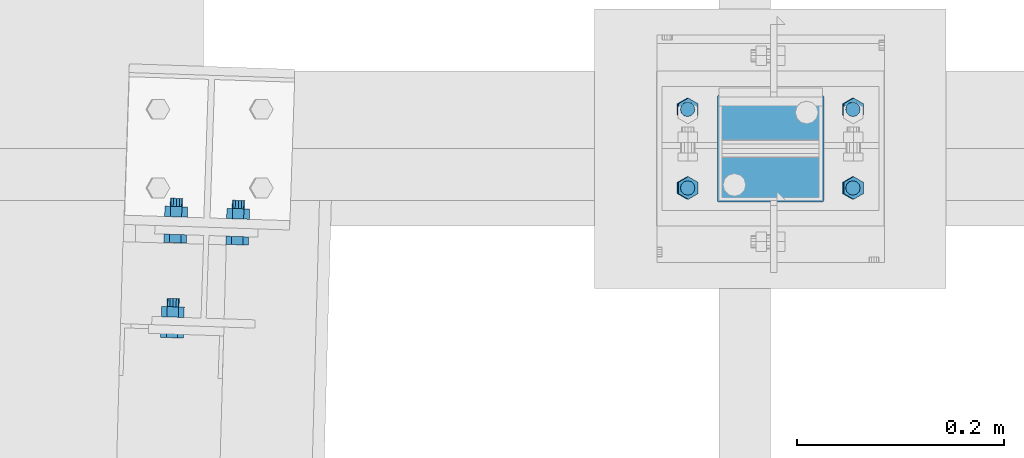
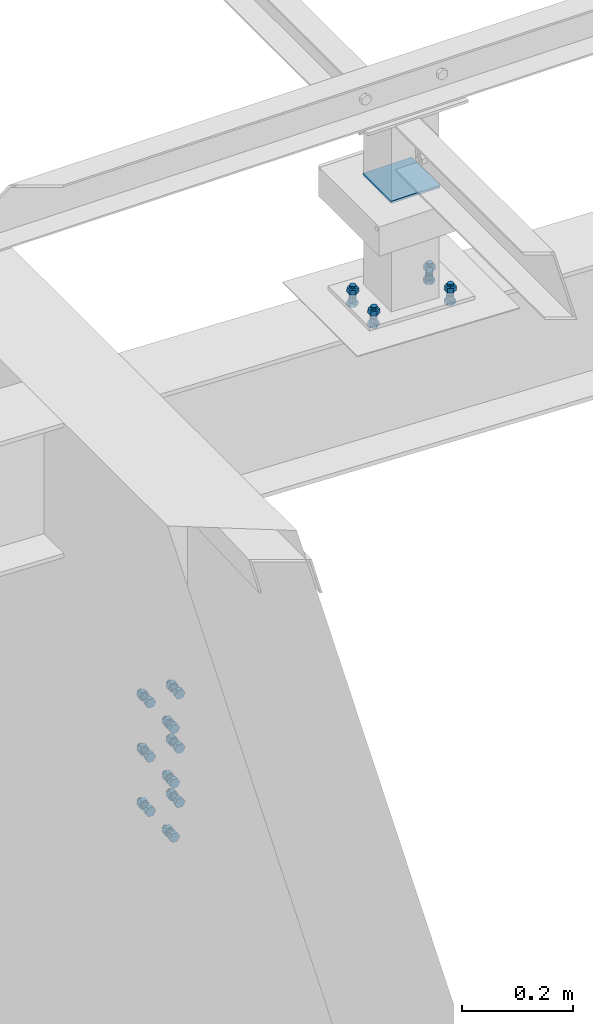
# One storey, part 169 of 3134: 5 mechanical fasteners, 4 elements without a shape of their own.
"""IFC2X3 building model written with IfcOpenShell, lengths in millimetres."""

import ifcopenshell
import ifcopenshell.guid

model = None  # the IFC model being written
_history = None  # IfcOwnerHistory: only IFC2X3 demands one
_inside = {}  # id of a spatial element -> (the spatial element, [elements in it])
_under = {}  # id of a project, library or spatial element -> (it, [spatial elements below it])
_declared = {}  # id of a project -> (the project, [libraries it declares])
_typed = {}  # id of a type object -> (the type object, [elements of that type])
_made_of = {}  # id of a material, layer set ... -> (it, [elements and type objects made of it])


def new_model(schema):
    """Start an empty IFC model of exactly this schema.

    Asked for "IFC4X3", IfcOpenShell would pick the latest addendum, in which some entities
    have other attributes; the version numbers below select the first issue.
    IFC2X3 requires an IfcOwnerHistory on every rooted entity: one is made here for all.
    """
    global model, _history
    if schema == "IFC4X3":
        model = ifcopenshell.file(schema_version=(4, 3, 0, 0))
    else:
        model = ifcopenshell.file(schema=schema)
    _inside.clear()
    _under.clear()
    _declared.clear()
    _typed.clear()
    _made_of.clear()
    _history = None
    if model.schema == "IFC2X3":
        org = make("IfcOrganization", Name="unknown")
        user = make(
            "IfcPersonAndOrganization",
            ThePerson=make("IfcPerson", FamilyName="unknown"),
            TheOrganization=org,
        )
        app = make(
            "IfcApplication",
            ApplicationDeveloper=org,
            Version="unknown",
            ApplicationFullName="unknown",
            ApplicationIdentifier="unknown",
        )
        _history = make(
            "IfcOwnerHistory",
            OwningUser=user,
            OwningApplication=app,
            ChangeAction="ADDED",
            CreationDate=0,
        )
    return model


def make(cls, **values):
    """One entity of the class cls with the attributes given. An attribute that is None is left unset."""
    return model.create_entity(
        cls, **{name: value for name, value in values.items() if value is not None}
    )


def rooted(cls, **values):
    """An entity with a GlobalId (a new one), such as an element, a storey or a relation."""
    return make(cls, GlobalId=ifcopenshell.guid.new(), OwnerHistory=_history, **values)


def si_unit(unit_type, name, prefix=None):
    """IfcSIUnit, for example si_unit("LENGTHUNIT", "METRE", prefix="MILLI")."""
    return make("IfcSIUnit", UnitType=unit_type, Prefix=prefix, Name=name)


def assignment(units):
    """IfcUnitAssignment: the units of a project."""
    return None if units is None else make("IfcUnitAssignment", Units=units)


def point(xyz):
    """IfcCartesianPoint."""
    return None if xyz is None else make("IfcCartesianPoint", Coordinates=xyz)


def direction(xyz):
    """IfcDirection."""
    return None if xyz is None else make("IfcDirection", DirectionRatios=xyz)


def frame(location, z_axis=None, x_axis=None):
    """IfcAxis2Placement3D, a coordinate frame: its origin and axes. An axis left out is left unset."""
    return make(
        "IfcAxis2Placement3D",
        Location=point(location),
        Axis=direction(z_axis),
        RefDirection=direction(x_axis),
    )


def origin_with_axes():
    """The frame at (0, 0, 0) with the z axis (0, 0, 1) and the x axis (1, 0, 0) written out."""
    return frame((0.0, 0.0, 0.0), z_axis=(0.0, 0.0, 1.0), x_axis=(1.0, 0.0, 0.0))


def place(relative_to, where):
    """IfcLocalPlacement: puts the frame where relative to a parent placement (None: the world)."""
    return make(
        "IfcLocalPlacement", PlacementRelTo=relative_to, RelativePlacement=where
    )


def context(
    kind, dimensions, precision=None, world=None, true_north=None, identifier=None
):
    """IfcGeometricRepresentationContext, for example the 3D "Model" context."""
    return make(
        "IfcGeometricRepresentationContext",
        ContextIdentifier=identifier,
        ContextType=kind,
        CoordinateSpaceDimension=dimensions,
        Precision=precision,
        WorldCoordinateSystem=world,
        TrueNorth=true_north,
    )


def subcontext(parent, identifier, kind, view, scale=None):
    """IfcGeometricRepresentationSubContext, for example "Body" below "Model"."""
    return make(
        "IfcGeometricRepresentationSubContext",
        ContextIdentifier=identifier,
        ContextType=kind,
        ParentContext=parent,
        TargetScale=scale,
        TargetView=view,
    )


def project(units=None, contexts=None):
    """IfcProject with its units and contexts."""
    return rooted(
        "IfcProject",
        Name="project",
        RepresentationContexts=contexts,
        UnitsInContext=assignment(units),
    )


def spatial(cls, under=None, at=None, **own):
    """A site, building, storey or space (cls), placed at a placement, below another one or the project."""
    s = rooted(cls, ObjectPlacement=at, **own)
    if under is not None:
        _under.setdefault(under.id(), (under, []))[1].append(s)
    return s


def faces_of(points, faces, orient=None, outer=None):
    """IfcFace entities. A face is a list of loops; a loop is a list of indices into points, from 0.

    orient and outer hold one flag for each loop. By default every Orientation is true, the
    first loop of a face is its IfcFaceOuterBound and the others are IfcFaceBound.
    """
    made = []
    for i, loops in enumerate(faces):
        bounds = []
        for j, loop in enumerate(loops):
            is_outer = j == 0 if outer is None else outer[i][j]
            bounds.append(
                make(
                    "IfcFaceOuterBound" if is_outer else "IfcFaceBound",
                    Bound=make("IfcPolyLoop", Polygon=[points[k] for k in loop]),
                    Orientation=True if orient is None else orient[i][j],
                )
            )
        made.append(make("IfcFace", Bounds=bounds))
    return made


def faceted_brep(points, faces, orient=None, outer=None, voids=None):
    """IfcFacetedBrep: a solid bounded by flat faces; with voids (closed shells), ...WithVoids."""
    shared = [point(p) for p in points]
    hull = make("IfcClosedShell", CfsFaces=faces_of(shared, faces, orient, outer))
    if voids is None:
        return make("IfcFacetedBrep", Outer=hull)
    return make(
        "IfcFacetedBrepWithVoids",
        Outer=hull,
        Voids=[
            make(cls, CfsFaces=faces_of(shared, fs, o, b)) for cls, fs, o, b in voids
        ],
    )


def shape(context_of_items, identifier, shape_type, items):
    """IfcShapeRepresentation: the items that make up one representation, for example the "Body"."""
    return make(
        "IfcShapeRepresentation",
        ContextOfItems=context_of_items,
        RepresentationIdentifier=identifier,
        RepresentationType=shape_type,
        Items=items,
    )


def source(mapping_origin, context_of_items, identifier, shape_type, items):
    """IfcRepresentationMap: a shape defined once, which mapped items show again and again."""
    return make(
        "IfcRepresentationMap",
        MappingOrigin=mapping_origin,
        MappedRepresentation=shape(context_of_items, identifier, shape_type, items),
    )


def transform(
    local_origin,
    x_axis=None,
    y_axis=None,
    z_axis=None,
    scale=None,
    scale2=None,
    scale3=None,
    uniform=True,
):
    """IfcCartesianTransformationOperator3D, or its non-uniform kind. x_axis, y_axis, z_axis: its Axis1, 2, 3."""
    if uniform:
        return make(
            "IfcCartesianTransformationOperator3D",
            Axis1=direction(x_axis),
            Axis2=direction(y_axis),
            LocalOrigin=point(local_origin),
            Scale=scale,
            Axis3=direction(z_axis),
        )
    return make(
        "IfcCartesianTransformationOperator3DnonUniform",
        Axis1=direction(x_axis),
        Axis2=direction(y_axis),
        LocalOrigin=point(local_origin),
        Scale=scale,
        Axis3=direction(z_axis),
        Scale2=scale2,
        Scale3=scale3,
    )


def mapped(mapping_source, mapping_target):
    """IfcMappedItem: shows the shape of a source again, moved by a transform."""
    return make(
        "IfcMappedItem", MappingSource=mapping_source, MappingTarget=mapping_target
    )


def material(Name=None, Category=None):
    """IfcMaterial."""
    return make("IfcMaterial", Name=Name, Category=Category)


def made_of(thing, what):
    """Note that an element or type object is made of a material, layer set ...; save() writes the relation."""
    if what is not None:
        _made_of.setdefault(what.id(), (what, []))[1].append(thing)
    return thing


def type_object(cls, material=None, **own):
    """A type object (cls), such as IfcWallType, which elements share."""
    return made_of(rooted(cls, **own), material)


def element(
    cls,
    number,
    at=None,
    inside=None,
    cuts=None,
    type_object=None,
    material=None,
    context=None,
    identifier="Body",
    shape_type=None,
    held_by="IfcProductDefinitionShape",
    body=None,
    shapes=None,
    **own,
):
    """One element of the class cls, such as IfcWall. Its Tag is "e" and its number.

    at: its placement. inside: the storey or other place that contains it. cuts: it is an
    opening in that element (IfcRelVoidsElement). A single representation is given by context,
    identifier, shape_type and body (its items); several are given by shapes. held_by: the class
    of the entity that holds the representations. save() writes the other relations.
    """
    e = rooted(cls, Tag="e%d" % number, ObjectPlacement=at, **own)
    if body is not None:
        shapes = [shape(context, identifier, shape_type, body)]
    if shapes is not None:
        e.Representation = make(held_by, Representations=shapes)
    if inside is not None:
        _inside.setdefault(inside.id(), (inside, []))[1].append(e)
    if cuts is not None:
        rooted(
            "IfcRelVoidsElement", RelatingBuildingElement=cuts, RelatedOpeningElement=e
        )
    if type_object is not None:
        _typed.setdefault(type_object.id(), (type_object, []))[1].append(e)
    return made_of(e, material)


def aggregate(whole, parts):
    """IfcRelAggregates: a whole, such as a stair, and the parts it consists of."""
    return rooted("IfcRelAggregates", RelatingObject=whole, RelatedObjects=parts)


def save(model, path):
    """Write the relations noted so far, then the file.

    IfcRelAggregates (storeys below a building ...), IfcRelContainedInSpatialStructure (elements
    in a storey), IfcRelDefinesByType, IfcRelAssociatesMaterial and IfcRelDeclares: one each for
    every whole, place, type object, material and project.
    """
    for whole, parts in _under.values():
        aggregate(whole, parts)
    for where, things in _inside.values():
        rooted(
            "IfcRelContainedInSpatialStructure",
            RelatedElements=things,
            RelatingStructure=where,
        )
    for kind, things in _typed.values():
        rooted("IfcRelDefinesByType", RelatedObjects=things, RelatingType=kind)
    for what, things in _made_of.values():
        rooted("IfcRelAssociatesMaterial", RelatedObjects=things, RelatingMaterial=what)
    for by, libraries in _declared.values():
        rooted("IfcRelDeclares", RelatingContext=by, RelatedDefinitions=libraries)
    model.write(path)


model = new_model("IFC2X3")

# Units and contexts
model_context = context("Model", 3, precision=1e-05, world=origin_with_axes())
body_context = subcontext(model_context, "Body", "Model", "MODEL_VIEW")
ifc_project = project(units=[si_unit("LENGTHUNIT", "METRE", prefix="MILLI"), si_unit("AREAUNIT", "SQUARE_METRE"), si_unit("VOLUMEUNIT", "CUBIC_METRE"), si_unit("MASSUNIT", "GRAM", prefix="KILO"), si_unit("TIMEUNIT", "SECOND"), si_unit("PLANEANGLEUNIT", "RADIAN"), si_unit("SOLIDANGLEUNIT", "STERADIAN"), si_unit("THERMODYNAMICTEMPERATUREUNIT", "DEGREE_CELSIUS"), si_unit("LUMINOUSINTENSITYUNIT", "LUMEN")], contexts=[model_context])

# Site, building, storey
site_placement = place(None, origin_with_axes())
site = spatial("IfcSite", under=ifc_project, at=site_placement, CompositionType="ELEMENT")
building_placement = place(site_placement, origin_with_axes())
building = spatial("IfcBuilding", under=site, at=building_placement, Name="Undefined", CompositionType="ELEMENT")
storey_placement = place(building_placement, origin_with_axes())
storey = spatial("IfcBuildingStorey", under=building, at=storey_placement, Name="Undefined", CompositionType="ELEMENT", Elevation=0.0)

# Assembly, mechanical fastener
assembly_1_placement = place(storey_placement, origin_with_axes())
assembly_1 = element("IfcElementAssembly", 1, at=assembly_1_placement, inside=storey, Name="HEA100", AssemblyPlace="NOTDEFINED", PredefinedType="RIGID_FRAME")
ifc_material_1 = material(Name="8.8")
mechanical_fastener_type = type_object("IfcMechanicalFastenerType", Name="Bolt assembly")
shared_shape_1 = source(origin_with_axes(), body_context, "Body", "Brep", [
    faceted_brep([(10.9696551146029, -12.0, 0.0), (5.48482755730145, -12.0, 9.5), (-5.48482755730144, -12.0, 9.5), (-10.9696551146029, -12.0, 1.34339530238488e-15), (-5.48482755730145, -12.0, -9.5), (5.48482755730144, -12.0, -9.50000000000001), (5.48482755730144, -4.0, -9.50000000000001), (-5.48482755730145, -4.0, -9.5), (-10.9696551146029, -4.0, 1.34339530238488e-15), (-5.48482755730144, -4.0, 9.5), (5.48482755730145, -4.0, 9.5), (10.9696551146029, -4.0, 0.0), (6.0, -4.0, 0.0), (5.19615242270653, -4.0, 3.00000000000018), (2.99999999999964, -4.0, 5.19615242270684), (-6.21801588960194e-13, -4.0, 6.0), (-3.00000000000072, -4.0, 5.19615242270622), (-5.19615242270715, -4.0, 2.9999999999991), (-6.0, -4.0, -1.24360317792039e-12), (-5.19615242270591, -4.0, -3.00000000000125), (-2.99999999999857, -4.0, -5.19615242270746), (1.85874342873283e-12, -4.0, -6.0), (3.00000000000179, -4.0, -5.1961524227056), (5.19615242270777, -4.0, -2.99999999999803), (5.19615242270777, 26.0, -2.99999999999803), (3.00000000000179, 26.0, -5.1961524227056), (1.85874342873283e-12, 26.0, -6.0), (-2.99999999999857, 26.0, -5.19615242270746), (-5.19615242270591, 26.0, -3.00000000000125), (-6.0, 26.0, -1.24360317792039e-12), (-5.19615242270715, 26.0, 2.9999999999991), (-3.00000000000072, 26.0, 5.19615242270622), (-6.21801588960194e-13, 26.0, 6.0), (2.99999999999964, 26.0, 5.19615242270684), (5.19615242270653, 26.0, 3.00000000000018), (6.0, 26.0, 0.0), (10.9696551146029, 8.0, 0.0), (5.48482755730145, 8.0, 9.5), (-5.48482755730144, 8.0, 9.5), (-10.9696551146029, 8.0, 1.34339530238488e-15), (-5.48482755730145, 8.0, -9.5), (5.48482755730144, 8.0, -9.50000000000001), (5.48482755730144, 18.0, -9.50000000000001), (-5.48482755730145, 18.0, -9.5), (-10.9696551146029, 18.0, 1.34339530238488e-15), (-5.48482755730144, 18.0, 9.5), (5.48482755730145, 18.0, 9.5), (10.9696551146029, 18.0, 0.0)], [[[0, 1, 2, 3, 4, 5]], [[6, 7, 8, 9, 10, 11]], [[0, 11, 10, 1]], [[1, 10, 9, 2]], [[2, 9, 8, 3]], [[3, 8, 7, 4]], [[4, 7, 6, 5]], [[5, 6, 11, 0]], [[12, 13, 14, 15, 16, 17, 18, 19, 20, 21, 22, 23]], [[24, 25, 26, 27, 28, 29, 30, 31, 32, 33, 34, 35]], [[12, 35, 34, 13]], [[13, 34, 33, 14]], [[14, 33, 32, 15]], [[15, 32, 31, 16]], [[16, 31, 30, 17]], [[17, 30, 29, 18]], [[18, 29, 28, 19]], [[19, 28, 27, 20]], [[20, 27, 26, 21]], [[21, 26, 25, 22]], [[22, 25, 24, 23]], [[23, 24, 35, 12]], [[36, 37, 38, 39, 40, 41]], [[42, 43, 44, 45, 46, 47]], [[36, 47, 46, 37]], [[37, 46, 45, 38]], [[38, 45, 44, 39]], [[39, 44, 43, 40]], [[40, 43, 42, 41]], [[41, 42, 47, 36]]]),
    faceted_brep([(7.0, -3.9, 0.0), (6.06217782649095, -3.9, 3.50000000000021), (3.49999999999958, -3.9, 6.06217782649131), (-7.25435187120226e-13, -3.9, 7.0), (-3.50000000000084, -3.9, 6.06217782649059), (-6.06217782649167, -3.9, 3.49999999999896), (-7.0, -3.9, -1.45087037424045e-12), (-6.06217782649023, -3.9, -3.50000000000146), (-3.49999999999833, -3.9, -6.06217782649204), (2.1685340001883e-12, -3.9, -7.0), (3.50000000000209, -3.9, -6.06217782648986), (6.0621778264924, -3.9, -3.4999999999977), (6.0621778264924, 0.0999999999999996, -3.4999999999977), (3.50000000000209, 0.0999999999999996, -6.06217782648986), (2.1685340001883e-12, 0.0999999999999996, -7.0), (-3.49999999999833, 0.0999999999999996, -6.06217782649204), (-6.06217782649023, 0.0999999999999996, -3.50000000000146), (-7.0, 0.0999999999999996, -1.45087037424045e-12), (-6.06217782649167, 0.0999999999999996, 3.49999999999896), (-3.50000000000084, 0.0999999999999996, 6.06217782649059), (-7.25435187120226e-13, 0.0999999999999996, 7.0), (3.49999999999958, 0.0999999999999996, 6.06217782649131), (6.06217782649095, 0.0999999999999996, 3.50000000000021), (7.0, 0.0999999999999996, 0.0), (7.0, -0.1, 0.0), (6.06217782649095, -0.1, 3.50000000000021), (3.49999999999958, -0.1, 6.06217782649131), (-7.25435187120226e-13, -0.1, 7.0), (-3.50000000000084, -0.1, 6.06217782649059), (-6.06217782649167, -0.1, 3.49999999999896), (-7.0, -0.1, -1.45087037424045e-12), (-6.06217782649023, -0.1, -3.50000000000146), (-3.49999999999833, -0.1, -6.06217782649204), (2.1685340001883e-12, -0.1, -7.0), (3.50000000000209, -0.1, -6.06217782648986), (6.0621778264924, -0.1, -3.4999999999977), (6.0621778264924, 8.0000000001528, -3.4999999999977), (3.50000000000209, 8.0000000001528, -6.06217782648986), (2.1685340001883e-12, 8.0000000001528, -7.0), (-3.49999999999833, 8.0000000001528, -6.06217782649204), (-6.06217782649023, 8.0000000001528, -3.50000000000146), (-7.0, 8.0000000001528, -1.45087037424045e-12), (-6.06217782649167, 8.0000000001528, 3.49999999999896), (-3.50000000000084, 8.0000000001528, 6.06217782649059), (-7.25435187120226e-13, 8.0000000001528, 7.0), (3.49999999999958, 8.0000000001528, 6.06217782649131), (6.06217782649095, 8.0000000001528, 3.50000000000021), (7.0, 8.0000000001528, 0.0)], [[[0, 1, 2, 3, 4, 5, 6, 7, 8, 9, 10, 11]], [[12, 13, 14, 15, 16, 17, 18, 19, 20, 21, 22, 23]], [[0, 23, 22, 1]], [[1, 22, 21, 2]], [[2, 21, 20, 3]], [[3, 20, 19, 4]], [[4, 19, 18, 5]], [[5, 18, 17, 6]], [[6, 17, 16, 7]], [[7, 16, 15, 8]], [[8, 15, 14, 9]], [[9, 14, 13, 10]], [[10, 13, 12, 11]], [[11, 12, 23, 0]], [[24, 25, 26, 27, 28, 29, 30, 31, 32, 33, 34, 35]], [[36, 37, 38, 39, 40, 41, 42, 43, 44, 45, 46, 47]], [[24, 47, 46, 25]], [[25, 46, 45, 26]], [[26, 45, 44, 27]], [[27, 44, 43, 28]], [[28, 43, 42, 29]], [[29, 42, 41, 30]], [[30, 41, 40, 31]], [[31, 40, 39, 32]], [[32, 39, 38, 33]], [[33, 38, 37, 34]], [[34, 37, 36, 35]], [[35, 36, 47, 24]]]),
])
mechanical_fastener_1_placement = place(assembly_1_placement, frame((2464.60655312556, 34741.5973360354, 3170.0), z_axis=(0.0, 0.0, 1.0), x_axis=(0.99944265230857, -0.0333824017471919, 0.0)))
mechanical_fastener_1 = element("IfcMechanicalFastener", 2, at=mechanical_fastener_1_placement, type_object=mechanical_fastener_type, material=ifc_material_1, Name="Bolt assembly", NominalDiameter=12.0, NominalLength=30.0, context=body_context, shape_type="MappedRepresentation", body=[
    mapped(shared_shape_1, transform((0.0, 0.0, -120.0))),
    mapped(shared_shape_1, transform((0.0, 0.0, 0.0))),
    mapped(shared_shape_1, transform((0.0, 0.0, 120.0))),
])
aggregate(assembly_1, [mechanical_fastener_1])

assembly_2_placement = place(storey_placement, origin_with_axes())
assembly_2 = element("IfcElementAssembly", 3, at=assembly_2_placement, inside=storey, Name="HEA160", AssemblyPlace="NOTDEFINED", PredefinedType="RIGID_FRAME")
shared_shape_2 = source(origin_with_axes(), body_context, "Body", "Brep", [
    faceted_brep([(10.9696551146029, -16.0, 0.0), (5.48482755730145, -16.0, 9.5), (-5.48482755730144, -16.0, 9.5), (-10.9696551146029, -16.0, 1.34339530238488e-15), (-5.48482755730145, -16.0, -9.5), (5.48482755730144, -16.0, -9.50000000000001), (5.48482755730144, -8.0, -9.50000000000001), (-5.48482755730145, -8.0, -9.5), (-10.9696551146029, -8.0, 1.34339530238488e-15), (-5.48482755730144, -8.0, 9.5), (5.48482755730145, -8.0, 9.5), (10.9696551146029, -8.0, 0.0), (6.0, -8.0, 0.0), (5.19615242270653, -8.0, 3.00000000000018), (2.99999999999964, -8.0, 5.19615242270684), (-6.21801588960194e-13, -8.0, 6.0), (-3.00000000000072, -8.0, 5.19615242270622), (-5.19615242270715, -8.0, 2.9999999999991), (-6.0, -8.0, -1.24360317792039e-12), (-5.19615242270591, -8.0, -3.00000000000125), (-2.99999999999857, -8.0, -5.19615242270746), (1.85874342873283e-12, -8.0, -6.0), (3.00000000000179, -8.0, -5.1961524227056), (5.19615242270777, -8.0, -2.99999999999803), (5.19615242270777, 27.0, -2.99999999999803), (3.00000000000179, 27.0, -5.1961524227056), (1.85874342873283e-12, 27.0, -6.0), (-2.99999999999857, 27.0, -5.19615242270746), (-5.19615242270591, 27.0, -3.00000000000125), (-6.0, 27.0, -1.24360317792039e-12), (-5.19615242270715, 27.0, 2.9999999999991), (-3.00000000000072, 27.0, 5.19615242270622), (-6.21801588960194e-13, 27.0, 6.0), (2.99999999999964, 27.0, 5.19615242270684), (5.19615242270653, 27.0, 3.00000000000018), (6.0, 27.0, 0.0), (10.9696551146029, 9.00000000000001, 0.0), (5.48482755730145, 9.00000000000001, 9.5), (-5.48482755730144, 9.00000000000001, 9.5), (-10.9696551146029, 9.00000000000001, 1.34339530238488e-15), (-5.48482755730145, 9.00000000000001, -9.5), (5.48482755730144, 9.00000000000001, -9.50000000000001), (5.48482755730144, 19.0, -9.50000000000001), (-5.48482755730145, 19.0, -9.5), (-10.9696551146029, 19.0, 1.34339530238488e-15), (-5.48482755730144, 19.0, 9.5), (5.48482755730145, 19.0, 9.5), (10.9696551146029, 19.0, 0.0)], [[[0, 1, 2, 3, 4, 5]], [[6, 7, 8, 9, 10, 11]], [[0, 11, 10, 1]], [[1, 10, 9, 2]], [[2, 9, 8, 3]], [[3, 8, 7, 4]], [[4, 7, 6, 5]], [[5, 6, 11, 0]], [[12, 13, 14, 15, 16, 17, 18, 19, 20, 21, 22, 23]], [[24, 25, 26, 27, 28, 29, 30, 31, 32, 33, 34, 35]], [[12, 35, 34, 13]], [[13, 34, 33, 14]], [[14, 33, 32, 15]], [[15, 32, 31, 16]], [[16, 31, 30, 17]], [[17, 30, 29, 18]], [[18, 29, 28, 19]], [[19, 28, 27, 20]], [[20, 27, 26, 21]], [[21, 26, 25, 22]], [[22, 25, 24, 23]], [[23, 24, 35, 12]], [[36, 37, 38, 39, 40, 41]], [[42, 43, 44, 45, 46, 47]], [[36, 47, 46, 37]], [[37, 46, 45, 38]], [[38, 45, 44, 39]], [[39, 44, 43, 40]], [[40, 43, 42, 41]], [[41, 42, 47, 36]]]),
    faceted_brep([(7.0, -7.9, 0.0), (6.06217782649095, -7.9, 3.50000000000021), (3.49999999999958, -7.9, 6.06217782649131), (-7.25435187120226e-13, -7.9, 7.0), (-3.50000000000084, -7.9, 6.06217782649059), (-6.06217782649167, -7.9, 3.49999999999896), (-7.0, -7.9, -1.45087037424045e-12), (-6.06217782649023, -7.9, -3.50000000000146), (-3.49999999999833, -7.9, -6.06217782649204), (2.1685340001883e-12, -7.9, -7.0), (3.50000000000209, -7.9, -6.06217782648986), (6.0621778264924, -7.9, -3.4999999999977), (6.0621778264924, 0.0999999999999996, -3.4999999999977), (3.50000000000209, 0.0999999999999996, -6.06217782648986), (2.1685340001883e-12, 0.0999999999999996, -7.0), (-3.49999999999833, 0.0999999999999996, -6.06217782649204), (-6.06217782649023, 0.0999999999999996, -3.50000000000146), (-7.0, 0.0999999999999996, -1.45087037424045e-12), (-6.06217782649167, 0.0999999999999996, 3.49999999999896), (-3.50000000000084, 0.0999999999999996, 6.06217782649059), (-7.25435187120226e-13, 0.0999999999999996, 7.0), (3.49999999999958, 0.0999999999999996, 6.06217782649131), (6.06217782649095, 0.0999999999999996, 3.50000000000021), (7.0, 0.0999999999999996, 0.0), (7.0, -0.1, 0.0), (6.06217782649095, -0.1, 3.50000000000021), (3.49999999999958, -0.1, 6.06217782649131), (-7.25435187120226e-13, -0.1, 7.0), (-3.50000000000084, -0.1, 6.06217782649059), (-6.06217782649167, -0.1, 3.49999999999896), (-7.0, -0.1, -1.45087037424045e-12), (-6.06217782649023, -0.1, -3.50000000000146), (-3.49999999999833, -0.1, -6.06217782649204), (2.1685340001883e-12, -0.1, -7.0), (3.50000000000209, -0.1, -6.06217782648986), (6.0621778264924, -0.1, -3.4999999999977), (6.0621778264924, 9.00000000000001, -3.4999999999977), (3.50000000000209, 9.00000000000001, -6.06217782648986), (2.1685340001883e-12, 9.00000000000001, -7.0), (-3.49999999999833, 9.00000000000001, -6.06217782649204), (-6.06217782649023, 9.00000000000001, -3.50000000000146), (-7.0, 9.00000000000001, -1.45087037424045e-12), (-6.06217782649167, 9.00000000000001, 3.49999999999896), (-3.50000000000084, 9.00000000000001, 6.06217782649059), (-7.25435187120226e-13, 9.00000000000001, 7.0), (3.49999999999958, 9.00000000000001, 6.06217782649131), (6.06217782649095, 9.00000000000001, 3.50000000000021), (7.0, 9.00000000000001, 0.0)], [[[0, 1, 2, 3, 4, 5, 6, 7, 8, 9, 10, 11]], [[12, 13, 14, 15, 16, 17, 18, 19, 20, 21, 22, 23]], [[0, 23, 22, 1]], [[1, 22, 21, 2]], [[2, 21, 20, 3]], [[3, 20, 19, 4]], [[4, 19, 18, 5]], [[5, 18, 17, 6]], [[6, 17, 16, 7]], [[7, 16, 15, 8]], [[8, 15, 14, 9]], [[9, 14, 13, 10]], [[10, 13, 12, 11]], [[11, 12, 23, 0]], [[24, 25, 26, 27, 28, 29, 30, 31, 32, 33, 34, 35]], [[36, 37, 38, 39, 40, 41, 42, 43, 44, 45, 46, 47]], [[24, 47, 46, 25]], [[25, 46, 45, 26]], [[26, 45, 44, 27]], [[27, 44, 43, 28]], [[28, 43, 42, 29]], [[29, 42, 41, 30]], [[30, 41, 40, 31]], [[31, 40, 39, 32]], [[32, 39, 38, 33]], [[33, 38, 37, 34]], [[34, 37, 36, 35]], [[35, 36, 47, 24]]]),
])
mechanical_fastener_2_placement = place(assembly_2_placement, frame((2467.8112641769, 34837.5438306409, 3170.0), z_axis=(0.0, 0.0, 1.0), x_axis=(0.99944265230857, -0.0333824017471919, 0.0)))
mechanical_fastener_2 = element("IfcMechanicalFastener", 4, at=mechanical_fastener_2_placement, type_object=mechanical_fastener_type, material=ifc_material_1, Name="Bolt assembly", NominalDiameter=12.0, NominalLength=35.0, context=body_context, shape_type="MappedRepresentation", body=[
    mapped(shared_shape_2, transform((0.0, 0.0, -120.0))),
    mapped(shared_shape_2, transform((60.0000000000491, 0.0, -120.0))),
    mapped(shared_shape_2, transform((0.0, 0.0, 0.0))),
    mapped(shared_shape_2, transform((59.9999999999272, 0.0, 5.40239852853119e-10))),
    mapped(shared_shape_2, transform((0.0, 0.0, 120.0))),
    mapped(shared_shape_2, transform((60.0000000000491, 0.0, 120.0))),
])
aggregate(assembly_2, [mechanical_fastener_2])

assembly_3_placement = place(storey_placement, origin_with_axes())
assembly_3 = element("IfcElementAssembly", 5, at=assembly_3_placement, inside=storey, AssemblyPlace="NOTDEFINED", PredefinedType="RIGID_FRAME")
shared_shape_3 = source(origin_with_axes(), body_context, "Body", "Brep", [
    faceted_brep([(10.9696551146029, -4.1972538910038, 0.0), (5.48482755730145, -4.1972538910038, 9.5), (-5.48482755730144, -4.1972538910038, 9.5), (-10.9696551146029, -4.1972538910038, 1.34339530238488e-15), (-5.48482755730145, -4.1972538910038, -9.5), (5.48482755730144, -4.1972538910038, -9.50000000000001), (5.48482755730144, 3.8027461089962, -9.50000000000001), (-5.48482755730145, 3.8027461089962, -9.5), (-10.9696551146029, 3.8027461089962, 1.34339530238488e-15), (-5.48482755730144, 3.8027461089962, 9.5), (5.48482755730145, 3.8027461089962, 9.5), (10.9696551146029, 3.8027461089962, 0.0), (6.0, 3.8027461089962, 0.0), (5.19615242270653, 3.8027461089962, 3.00000000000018), (2.99999999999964, 3.8027461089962, 5.19615242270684), (-6.21801588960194e-13, 3.8027461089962, 6.0), (-3.00000000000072, 3.8027461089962, 5.19615242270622), (-5.19615242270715, 3.8027461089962, 2.9999999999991), (-6.0, 3.8027461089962, -1.24360317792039e-12), (-5.19615242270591, 3.8027461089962, -3.00000000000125), (-2.99999999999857, 3.8027461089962, -5.19615242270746), (1.85874342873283e-12, 3.8027461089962, -6.0), (3.00000000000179, 3.8027461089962, -5.1961524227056), (5.19615242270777, 3.8027461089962, -2.99999999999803), (5.19615242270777, 38.8027461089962, -2.99999999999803), (3.00000000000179, 38.8027461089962, -5.1961524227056), (1.85874342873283e-12, 38.8027461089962, -6.0), (-2.99999999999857, 38.8027461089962, -5.19615242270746), (-5.19615242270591, 38.8027461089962, -3.00000000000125), (-6.0, 38.8027461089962, -1.24360317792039e-12), (-5.19615242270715, 38.8027461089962, 2.9999999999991), (-3.00000000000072, 38.8027461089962, 5.19615242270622), (-6.21801588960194e-13, 38.8027461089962, 6.0), (2.99999999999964, 38.8027461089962, 5.19615242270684), (5.19615242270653, 38.8027461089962, 3.00000000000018), (6.0, 38.8027461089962, 0.0), (10.9696551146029, 23.0139082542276, 0.0), (5.48482755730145, 23.0139082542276, 9.5), (-5.48482755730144, 23.0139082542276, 9.5), (-10.9696551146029, 23.0139082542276, 1.34339530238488e-15), (-5.48482755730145, 23.0139082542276, -9.5), (5.48482755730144, 23.0139082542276, -9.50000000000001), (5.48482755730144, 33.0139082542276, -9.50000000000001), (-5.48482755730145, 33.0139082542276, -9.5), (-10.9696551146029, 33.0139082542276, 1.34339530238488e-15), (-5.48482755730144, 33.0139082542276, 9.5), (5.48482755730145, 33.0139082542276, 9.5), (10.9696551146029, 33.0139082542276, 0.0)], [[[0, 1, 2, 3, 4, 5]], [[6, 7, 8, 9, 10, 11]], [[0, 11, 10, 1]], [[1, 10, 9, 2]], [[2, 9, 8, 3]], [[3, 8, 7, 4]], [[4, 7, 6, 5]], [[5, 6, 11, 0]], [[12, 13, 14, 15, 16, 17, 18, 19, 20, 21, 22, 23]], [[24, 25, 26, 27, 28, 29, 30, 31, 32, 33, 34, 35]], [[12, 35, 34, 13]], [[13, 34, 33, 14]], [[14, 33, 32, 15]], [[15, 32, 31, 16]], [[16, 31, 30, 17]], [[17, 30, 29, 18]], [[18, 29, 28, 19]], [[19, 28, 27, 20]], [[20, 27, 26, 21]], [[21, 26, 25, 22]], [[22, 25, 24, 23]], [[23, 24, 35, 12]], [[36, 37, 38, 39, 40, 41]], [[42, 43, 44, 45, 46, 47]], [[36, 47, 46, 37]], [[37, 46, 45, 38]], [[38, 45, 44, 39]], [[39, 44, 43, 40]], [[40, 43, 42, 41]], [[41, 42, 47, 36]]]),
    faceted_brep([(7.0, 3.9027461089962, 0.0), (6.06217782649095, 3.9027461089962, 3.50000000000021), (3.49999999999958, 3.9027461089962, 6.06217782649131), (-7.25435187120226e-13, 3.9027461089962, 7.0), (-3.50000000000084, 3.9027461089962, 6.06217782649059), (-6.06217782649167, 3.9027461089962, 3.49999999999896), (-7.0, 3.9027461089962, -1.45087037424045e-12), (-6.06217782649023, 3.9027461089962, -3.50000000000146), (-3.49999999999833, 3.9027461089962, -6.06217782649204), (2.1685340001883e-12, 3.9027461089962, -7.0), (3.50000000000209, 3.9027461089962, -6.06217782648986), (6.0621778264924, 3.9027461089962, -3.4999999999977), (6.0621778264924, 13.1027459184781, -3.4999999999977), (3.50000000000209, 13.1027459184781, -6.06217782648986), (2.1685340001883e-12, 13.1027459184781, -7.0), (-3.49999999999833, 13.1027459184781, -6.06217782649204), (-6.06217782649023, 13.1027459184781, -3.50000000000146), (-7.0, 13.1027459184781, -1.45087037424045e-12), (-6.06217782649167, 13.1027459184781, 3.49999999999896), (-3.50000000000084, 13.1027459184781, 6.06217782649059), (-7.25435187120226e-13, 13.1027459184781, 7.0), (3.49999999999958, 13.1027459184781, 6.06217782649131), (6.06217782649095, 13.1027459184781, 3.50000000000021), (7.0, 13.1027459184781, 0.0), (7.0, 14.9139082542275, 0.0), (6.06217782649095, 14.9139082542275, 3.50000000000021), (3.49999999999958, 14.9139082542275, 6.06217782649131), (-7.25435187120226e-13, 14.9139082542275, 7.0), (-3.50000000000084, 14.9139082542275, 6.06217782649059), (-6.06217782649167, 14.9139082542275, 3.49999999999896), (-7.0, 14.9139082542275, -1.45087037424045e-12), (-6.06217782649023, 14.9139082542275, -3.50000000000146), (-3.49999999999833, 14.9139082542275, -6.06217782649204), (2.1685340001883e-12, 14.9139082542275, -7.0), (3.50000000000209, 14.9139082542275, -6.06217782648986), (6.0621778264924, 14.9139082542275, -3.4999999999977), (6.0621778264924, 23.0139082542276, -3.4999999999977), (3.50000000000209, 23.0139082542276, -6.06217782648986), (2.1685340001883e-12, 23.0139082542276, -7.0), (-3.49999999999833, 23.0139082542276, -6.06217782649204), (-6.06217782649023, 23.0139082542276, -3.50000000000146), (-7.0, 23.0139082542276, -1.45087037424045e-12), (-6.06217782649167, 23.0139082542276, 3.49999999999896), (-3.50000000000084, 23.0139082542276, 6.06217782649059), (-7.25435187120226e-13, 23.0139082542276, 7.0), (3.49999999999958, 23.0139082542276, 6.06217782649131), (6.06217782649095, 23.0139082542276, 3.50000000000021), (7.0, 23.0139082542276, 0.0)], [[[0, 1, 2, 3, 4, 5, 6, 7, 8, 9, 10, 11]], [[12, 13, 14, 15, 16, 17, 18, 19, 20, 21, 22, 23]], [[0, 23, 22, 1]], [[1, 22, 21, 2]], [[2, 21, 20, 3]], [[3, 20, 19, 4]], [[4, 19, 18, 5]], [[5, 18, 17, 6]], [[6, 17, 16, 7]], [[7, 16, 15, 8]], [[8, 15, 14, 9]], [[9, 14, 13, 10]], [[10, 13, 12, 11]], [[11, 12, 23, 0]], [[24, 25, 26, 27, 28, 29, 30, 31, 32, 33, 34, 35]], [[36, 37, 38, 39, 40, 41, 42, 43, 44, 45, 46, 47]], [[24, 47, 46, 25]], [[25, 46, 45, 26]], [[26, 45, 44, 27]], [[27, 44, 43, 28]], [[28, 43, 42, 29]], [[29, 42, 41, 30]], [[30, 41, 40, 31]], [[31, 40, 39, 32]], [[32, 39, 38, 33]], [[33, 38, 37, 34]], [[34, 37, 36, 35]], [[35, 36, 47, 24]]]),
])
mechanical_fastener_3_placement = place(assembly_3_placement, frame((3042.5231765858, 34950.4999999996, 3920.50000668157), z_axis=(-0.999387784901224, 0.0, 0.0349865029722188), x_axis=(0.0, -1.0, 0.0)))
mechanical_fastener_3 = element("IfcMechanicalFastener", 6, at=mechanical_fastener_3_placement, type_object=mechanical_fastener_type, material=ifc_material_1, Name="Bolt assembly", NominalDiameter=12.0, NominalLength=35.0, context=body_context, shape_type="MappedRepresentation", body=[
    mapped(shared_shape_3, transform((0.0, -5.32963895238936e-10, -79.9999999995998))),
    mapped(shared_shape_3, transform((76.0, -5.32963895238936e-10, -79.9999999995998))),
    mapped(shared_shape_3, transform((0.0, 5.3114490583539e-10, 79.9999999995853))),
    mapped(shared_shape_3, transform((76.0, 5.3114490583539e-10, 79.9999999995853))),
])

assembly_4_placement = place(storey_placement, origin_with_axes())
assembly_4 = element("IfcElementAssembly", 7, at=assembly_4_placement, inside=storey, AssemblyPlace="NOTDEFINED", PredefinedType="RIGID_FRAME")
shared_shape_4 = source(origin_with_axes(), body_context, "Body", "Brep", [
    faceted_brep([(7.0, 13.0000253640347, 0.0), (6.06217782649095, 13.0000253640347, 3.50000000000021), (3.49999999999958, 13.0000253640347, 6.06217782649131), (-7.25435187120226e-13, 13.0000253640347, 7.0), (-3.50000000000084, 13.0000253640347, 6.06217782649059), (-6.06217782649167, 13.0000253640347, 3.49999999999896), (-7.0, 13.0000253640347, -1.45087037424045e-12), (-6.06217782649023, 13.0000253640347, -3.50000000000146), (-3.49999999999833, 13.0000253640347, -6.06217782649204), (2.1685340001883e-12, 13.0000253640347, -7.0), (3.50000000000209, 13.0000253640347, -6.06217782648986), (6.0621778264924, 13.0000253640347, -3.4999999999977), (6.0621778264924, 15.0999999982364, -3.4999999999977), (3.50000000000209, 15.0999999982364, -6.06217782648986), (2.1685340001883e-12, 15.0999999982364, -7.0), (-3.49999999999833, 15.0999999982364, -6.06217782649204), (-6.06217782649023, 15.0999999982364, -3.50000000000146), (-7.0, 15.0999999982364, -1.45087037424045e-12), (-6.06217782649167, 15.0999999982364, 3.49999999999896), (-3.50000000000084, 15.0999999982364, 6.06217782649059), (-7.25435187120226e-13, 15.0999999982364, 7.0), (3.49999999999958, 15.0999999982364, 6.06217782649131), (6.06217782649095, 15.0999999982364, 3.50000000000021), (7.0, 15.0999999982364, 0.0)], [[[0, 1, 2, 3, 4, 5, 6, 7, 8, 9, 10, 11]], [[12, 13, 14, 15, 16, 17, 18, 19, 20, 21, 22, 23]], [[0, 23, 22, 1]], [[1, 22, 21, 2]], [[2, 21, 20, 3]], [[3, 20, 19, 4]], [[4, 19, 18, 5]], [[5, 18, 17, 6]], [[6, 17, 16, 7]], [[7, 16, 15, 8]], [[8, 15, 14, 9]], [[9, 14, 13, 10]], [[10, 13, 12, 11]], [[11, 12, 23, 0]]]),
])
mechanical_fastener_4_placement = place(assembly_4_placement, frame((3042.5231765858, 34950.4999999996, 3920.50000668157), z_axis=(-0.999387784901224, 0.0, 0.0349865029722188), x_axis=(0.0, -1.0, 0.0)))
mechanical_fastener_4 = element("IfcMechanicalFastener", 8, at=mechanical_fastener_4_placement, type_object=mechanical_fastener_type, material=ifc_material_1, Name="Bolt assembly", NominalDiameter=12.0, NominalLength=2.0, context=body_context, shape_type="MappedRepresentation", body=[
    mapped(shared_shape_4, transform((0.0, -5.32963895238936e-10, -79.9999999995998))),
    mapped(shared_shape_4, transform((76.0, -5.32963895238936e-10, -79.9999999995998))),
    mapped(shared_shape_4, transform((0.0, 5.3114490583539e-10, 79.9999999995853))),
    mapped(shared_shape_4, transform((76.0, 5.3114490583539e-10, 79.9999999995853))),
])
aggregate(assembly_4, [mechanical_fastener_4])

# Mechanical fastener
ifc_material_2 = material(Name="6.8")
shared_shape_5 = source(origin_with_axes(), body_context, "Body", "Brep", [
    faceted_brep([(51.5, 1.36424205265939e-12, 50.0), (51.3858192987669, 1.36424205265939e-12, 50.5740251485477), (51.0606601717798, 1.36424205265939e-12, 51.0606601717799), (50.5740251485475, 1.36424205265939e-12, 51.385819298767), (-50.0000000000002, 1.36424205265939e-12, 51.5), (-50.7500000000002, 1.36424205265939e-12, 51.2990381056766), (-51.2990381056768, 1.36424205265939e-12, 50.7499999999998), (-51.5, 1.36424205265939e-12, 49.9999999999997), (-51.5, 1.36424205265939e-12, -50.0000000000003), (-51.2990381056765, 1.36424205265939e-12, -50.7500000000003), (-50.7499999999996, 1.36424205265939e-12, -51.2990381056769), (-49.9999999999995, 1.36424205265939e-12, -51.5), (50.0000000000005, 1.36424205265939e-12, -51.5), (50.7500000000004, 1.36424205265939e-12, -51.2990381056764), (51.2990381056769, 1.36424205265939e-12, -50.7499999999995), (51.5, 1.36424205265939e-12, -49.9999999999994), (51.5, 5.10000000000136, -49.9999999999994), (51.2990381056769, 5.10000000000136, -50.7499999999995), (50.7500000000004, 5.10000000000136, -51.2990381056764), (50.0000000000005, 5.10000000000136, -51.5), (-49.9999999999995, 5.10000000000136, -51.5), (-50.7499999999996, 5.10000000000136, -51.2990381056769), (-51.2990381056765, 5.10000000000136, -50.7500000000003), (-51.5, 5.10000000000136, -50.0000000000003), (-51.5, 5.10000000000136, 49.9999999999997), (-51.2990381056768, 5.10000000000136, 50.7499999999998), (-50.7500000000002, 5.10000000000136, 51.2990381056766), (-50.0000000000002, 5.10000000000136, 51.5), (50.5740251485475, 5.10000000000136, 51.385819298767), (51.0606601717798, 5.10000000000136, 51.0606601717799), (51.3858192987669, 5.10000000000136, 50.5740251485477), (51.5, 5.10000000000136, 50.0)], [[[0, 1, 2, 3, 4, 5, 6, 7, 8, 9, 10, 11, 12, 13, 14, 15]], [[16, 17, 18, 19, 20, 21, 22, 23, 24, 25, 26, 27, 28, 29, 30, 31]], [[0, 31, 30, 1]], [[1, 30, 29, 2]], [[2, 29, 28, 3]], [[3, 28, 27, 4]], [[4, 27, 26, 5]], [[5, 26, 25, 6]], [[6, 25, 24, 7]], [[7, 24, 23, 8]], [[8, 23, 22, 9]], [[9, 22, 21, 10]], [[10, 21, 20, 11]], [[11, 20, 19, 12]], [[12, 19, 18, 13]], [[13, 18, 17, 14]], [[14, 17, 16, 15]], [[15, 16, 31, 0]]]),
])
mechanical_fastener_5_placement = place(assembly_3_placement, frame((3043.33, 34912.5, 4190.29), z_axis=(0.0, -1.0, 0.0), x_axis=(-1.0, 0.0, 0.0)))
mechanical_fastener_5 = element("IfcMechanicalFastener", 9, at=mechanical_fastener_5_placement, type_object=mechanical_fastener_type, material=ifc_material_2, Name="Bolt assembly", NominalDiameter=10.0, NominalLength=5.0, context=body_context, shape_type="MappedRepresentation", body=[
    mapped(shared_shape_5, transform((0.0, 0.0, 0.0))),
])

aggregate(assembly_3, [mechanical_fastener_3, mechanical_fastener_5])

save(model, "model.ifc")
